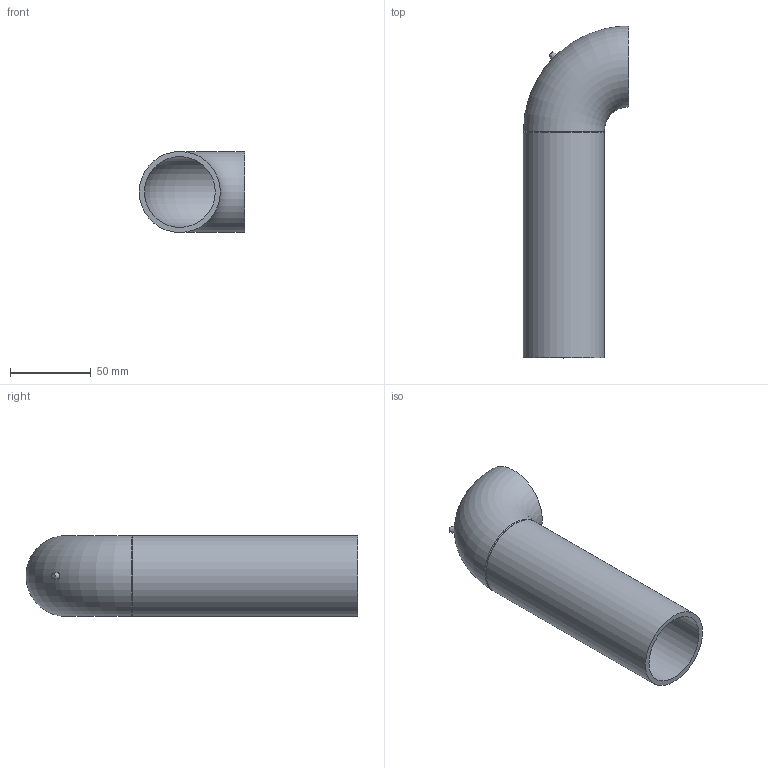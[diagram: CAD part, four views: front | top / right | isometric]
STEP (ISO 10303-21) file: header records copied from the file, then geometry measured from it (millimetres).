
FILE_DESCRIPTION(/* description */ (''),/* implementation_level */ '2;1');
FILE_NAME(/* name */ 'Z:\Geberit\Export\NewStep\361055.stp',/* time_stamp */ '2014-04-01T21:02:41+02:00',/* author */ ('bruh'),/* organization */ (''),/* preprocessor_version */ 'ST-DEVELOPER v15.2',/* originating_system */ 'Autodesk Inventor 2014',/* authorisation */ '');
FILE_SCHEMA (('AUTOMOTIVE_DESIGN { 1 0 10303 214 3 1 1 }'));
Length unit declared in the file: millimetre
Products named in the file (1): 361055
Bounding box: 65 x 205 x 50 mm (x, y, z)
Volume: 94034.8 mm3; surface area: 60725.5 mm2
Topology: 1 solids, 1 shells, 10 faces, 20 edges, 12 vertices
Faces by surface type: cone 3, plane 3, cylinder 2, torus 2
Full cylindrical faces by diameter (mm): 43.7 x1, 50 x1
Entity records: 279 total; most frequent: CARTESIAN_POINT 74, DIRECTION 40, EDGE_LOOP 20, ORIENTED_EDGE 20, AXIS2_PLACEMENT_3D 20, FACE_BOUND 12, STYLED_ITEM 11, VERTEX_POINT 10
